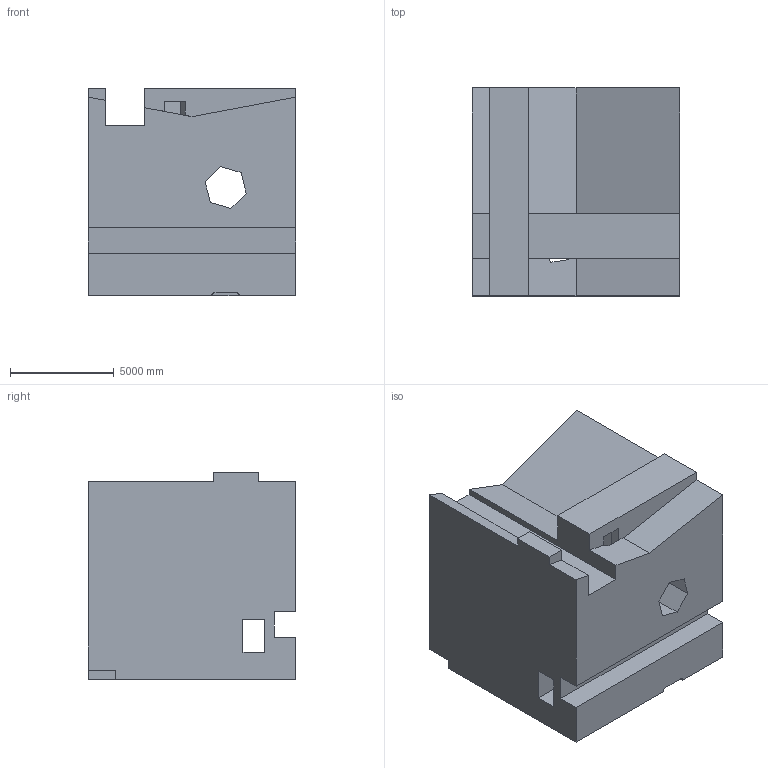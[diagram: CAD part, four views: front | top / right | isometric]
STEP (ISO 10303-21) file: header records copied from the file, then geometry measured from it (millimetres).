
FILE_DESCRIPTION (( 'STEP AP203' ), '1' );
FILE_NAME ('185.STEP', '2022-09-06T12:52:47', ( 'user' ), ( '' ), 'SwSTEP 2.0', 'SolidWorks 2021', '' );
FILE_SCHEMA (( 'CONFIG_CONTROL_DESIGN' ));
Length unit declared in the file: centimetre
Products named in the file (1): 185
Bounding box: 10000 x 10000 x 10000 mm (x, y, z)
Volume: 802996159493.1 mm3; surface area: 771494950.3 mm2
Topology: 1 solids, 1 shells, 52 faces, 159 edges, 106 vertices
Faces by surface type: plane 50, cylinder 2
Entity records: 1840 total; most frequent: ORIENTED_EDGE 318, CARTESIAN_POINT 318, DIRECTION 269, EDGE_CURVE 159, LINE 155, VECTOR 155, VERTEX_POINT 106, AXIS2_PLACEMENT_3D 57
